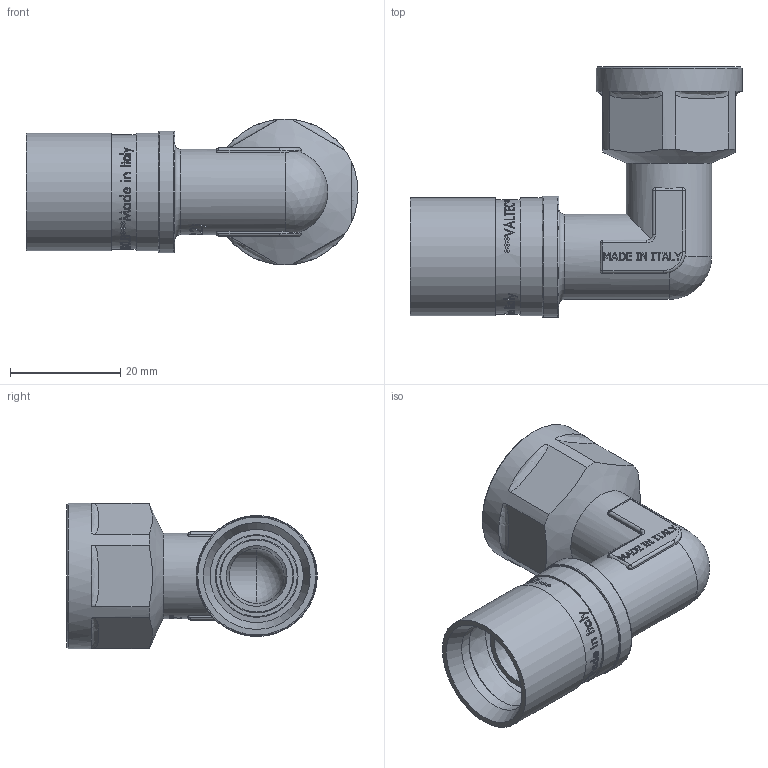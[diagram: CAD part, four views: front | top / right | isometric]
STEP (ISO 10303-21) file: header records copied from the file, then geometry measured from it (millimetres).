
FILE_DESCRIPTION(/* description */ (''),/* implementation_level */ '2;1');
FILE_NAME(/* name */ 'F:\Артём\00000\Работа удаленка\Аксеальные фитинги\VTm.452.BG.001604.stp',/* time_stamp */ '2021-01-27T11:26:41+03:00',/* author */ ('almis'),/* organization */ (''),/* preprocessor_version */ 'ST-DEVELOPER v18',/* originating_system */ 'Autodesk Inventor 2020',/* authorisation */ '');
FILE_SCHEMA (('AUTOMOTIVE_DESIGN { 1 0 10303 214 3 1 1 }'));
Length unit declared in the file: millimetre
Products named in the file (1): VTm.451.BG.001616
Bounding box: 60.26 x 45.5 x 26.5 mm (x, y, z)
Volume: 13524.8 mm3; surface area: 11901.7 mm2
Topology: 1 solids, 1 shells, 1073 faces, 2938 edges, 1962 vertices
Faces by surface type: bspline 449, plane 442, cylinder 133, torus 27, cone 12, sphere 10
Full cylindrical faces by diameter (mm): 10 x2, 12.8 x5, 13.4 x4, 15 x1, 15.5 x2, 16.9 x2, 18.6 x7, 20.8 x1, 21.4 x2, 22 x1, 22.2 x6, 26.5 x1
Entity records: 44461 total; most frequent: CARTESIAN_POINT 19915, ORIENTED_EDGE 5876, DIRECTION 3710, EDGE_CURVE 2938, VERTEX_POINT 1962, LINE 1486, VECTOR 1486, EDGE_LOOP 1170
